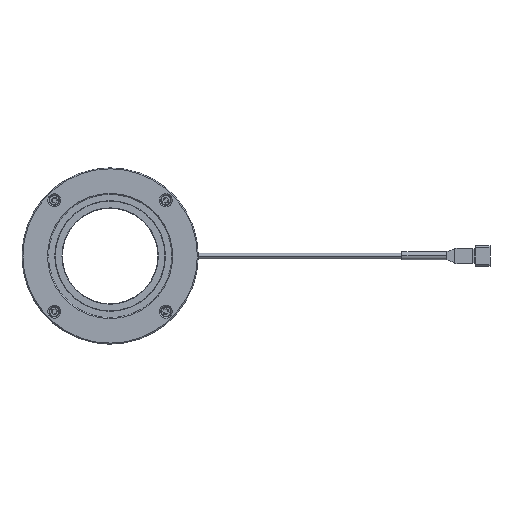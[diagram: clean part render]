
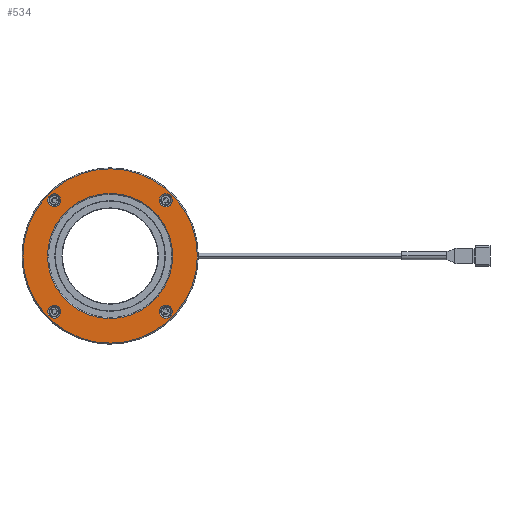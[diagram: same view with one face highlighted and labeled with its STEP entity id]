
A CAD part, top view. The second image highlights one B-rep face of the part: STEP entity #534.
In plain terms, the highlighted planar face has unit normal (0, 0, 1).
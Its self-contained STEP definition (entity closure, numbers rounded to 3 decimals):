
#534=ADVANCED_FACE('NONE',(#1278,#1279,#1280,#1281,#1282,#1283),#1284,.F.);
#1278=FACE_OUTER_BOUND('',#2315,.T.);
#1279=FACE_BOUND('',#2316,.T.);
#1280=FACE_BOUND('',#2317,.T.);
#1281=FACE_BOUND('',#2318,.T.);
#1282=FACE_BOUND('',#2319,.T.);
#1283=FACE_BOUND('',#2320,.T.);
#1284=PLANE('',#2321);
#2315=EDGE_LOOP('',(#3819,#3820));
#2316=EDGE_LOOP('',(#3821,#3822));
#2317=EDGE_LOOP('',(#3823,#3824));
#2318=EDGE_LOOP('',(#3825,#3826));
#2319=EDGE_LOOP('',(#3827,#3828));
#2320=EDGE_LOOP('',(#3829,#3830));
#2321=AXIS2_PLACEMENT_3D('',#3831,#3832,#3833);
#3819=ORIENTED_EDGE('',*,*,#6564,.T.);
#3820=ORIENTED_EDGE('',*,*,#6446,.T.);
#3821=ORIENTED_EDGE('',*,*,#6451,.T.);
#3822=ORIENTED_EDGE('',*,*,#6565,.T.);
#3823=ORIENTED_EDGE('',*,*,#6481,.T.);
#3824=ORIENTED_EDGE('',*,*,#6566,.T.);
#3825=ORIENTED_EDGE('',*,*,#6476,.T.);
#3826=ORIENTED_EDGE('',*,*,#6567,.T.);
#3827=ORIENTED_EDGE('',*,*,#6471,.T.);
#3828=ORIENTED_EDGE('',*,*,#6568,.T.);
#3829=ORIENTED_EDGE('',*,*,#6466,.T.);
#3830=ORIENTED_EDGE('',*,*,#6569,.T.);
#3831=CARTESIAN_POINT('',(48.0,0.0,30.0));
#3832=DIRECTION('',(0.,0.0,-1.0));
#3833=DIRECTION('',(-1.0,0.0,0.));
#6446=EDGE_CURVE('NONE',#7562,#7559,#7563,.T.);
#6451=EDGE_CURVE('NONE',#7571,#7568,#7572,.T.);
#6466=EDGE_CURVE('NONE',#7598,#7595,#7599,.T.);
#6471=EDGE_CURVE('NONE',#7607,#7604,#7608,.T.);
#6476=EDGE_CURVE('NONE',#7616,#7613,#7617,.T.);
#6481=EDGE_CURVE('NONE',#7625,#7622,#7626,.T.);
#6564=EDGE_CURVE('NONE',#7559,#7562,#7742,.T.);
#6565=EDGE_CURVE('NONE',#7568,#7571,#7743,.T.);
#6566=EDGE_CURVE('NONE',#7622,#7625,#7744,.T.);
#6567=EDGE_CURVE('NONE',#7613,#7616,#7745,.T.);
#6568=EDGE_CURVE('NONE',#7604,#7607,#7746,.T.);
#6569=EDGE_CURVE('NONE',#7595,#7598,#7747,.T.);
#7559=VERTEX_POINT('NONE',#9176);
#7562=VERTEX_POINT('',#9180);
#7563=CIRCLE('',#9181,47.5);
#7568=VERTEX_POINT('',#9187);
#7571=VERTEX_POINT('NONE',#9191);
#7572=CIRCLE('',#9192,34.1);
#7595=VERTEX_POINT('',#9218);
#7598=VERTEX_POINT('NONE',#9222);
#7599=CIRCLE('',#9223,3.5);
#7604=VERTEX_POINT('',#9229);
#7607=VERTEX_POINT('NONE',#9233);
#7608=CIRCLE('',#9234,3.5);
#7613=VERTEX_POINT('',#9240);
#7616=VERTEX_POINT('NONE',#9244);
#7617=CIRCLE('',#9245,3.5);
#7622=VERTEX_POINT('',#9251);
#7625=VERTEX_POINT('NONE',#9255);
#7626=CIRCLE('',#9256,3.5);
#7742=CIRCLE('',#9397,47.5);
#7743=CIRCLE('',#9398,34.1);
#7744=CIRCLE('',#9399,3.5);
#7745=CIRCLE('',#9400,3.5);
#7746=CIRCLE('',#9401,3.5);
#7747=CIRCLE('',#9402,3.5);
#9176=CARTESIAN_POINT('',(-47.5,0.0,30.0));
#9180=CARTESIAN_POINT('',(47.5,0.,30.0));
#9181=AXIS2_PLACEMENT_3D('',#11865,#11866,#11867);
#9187=CARTESIAN_POINT('',(34.1,0.,30.0));
#9191=CARTESIAN_POINT('',(-34.1,0.0,30.0));
#9192=AXIS2_PLACEMENT_3D('',#11873,#11874,#11875);
#9218=CARTESIAN_POINT('',(-26.906,30.406,30.0));
#9222=CARTESIAN_POINT('',(-33.906,30.406,30.0));
#9223=AXIS2_PLACEMENT_3D('',#11901,#11902,#11903);
#9229=CARTESIAN_POINT('',(-26.906,-30.406,30.0));
#9233=CARTESIAN_POINT('',(-33.906,-30.406,30.0));
#9234=AXIS2_PLACEMENT_3D('',#11909,#11910,#11911);
#9240=CARTESIAN_POINT('',(33.906,-30.406,30.0));
#9244=CARTESIAN_POINT('',(26.906,-30.406,30.0));
#9245=AXIS2_PLACEMENT_3D('',#11917,#11918,#11919);
#9251=CARTESIAN_POINT('',(33.906,30.406,30.0));
#9255=CARTESIAN_POINT('',(26.906,30.406,30.0));
#9256=AXIS2_PLACEMENT_3D('',#11925,#11926,#11927);
#9397=AXIS2_PLACEMENT_3D('',#12055,#12056,#12057);
#9398=AXIS2_PLACEMENT_3D('',#12058,#12059,#12060);
#9399=AXIS2_PLACEMENT_3D('',#12061,#12062,#12063);
#9400=AXIS2_PLACEMENT_3D('',#12064,#12065,#12066);
#9401=AXIS2_PLACEMENT_3D('',#12067,#12068,#12069);
#9402=AXIS2_PLACEMENT_3D('',#12070,#12071,#12072);
#11865=CARTESIAN_POINT('',(0.,0.0,30.0));
#11866=DIRECTION('',(0.,0.0,1.0));
#11867=DIRECTION('',(-1.0,0.0,0.));
#11873=CARTESIAN_POINT('',(0.,0.0,30.0));
#11874=DIRECTION('',(0.,0.0,-1.0));
#11875=DIRECTION('',(-1.0,0.0,0.));
#11901=CARTESIAN_POINT('',(-30.406,30.406,30.0));
#11902=DIRECTION('',(0.0,0.0,-1.0));
#11903=DIRECTION('',(-1.0,0.0,0.0));
#11909=CARTESIAN_POINT('',(-30.406,-30.406,30.0));
#11910=DIRECTION('',(0.0,0.0,-1.0));
#11911=DIRECTION('',(-1.0,0.0,0.0));
#11917=CARTESIAN_POINT('',(30.406,-30.406,30.0));
#11918=DIRECTION('',(0.0,0.0,-1.0));
#11919=DIRECTION('',(-1.0,0.0,0.0));
#11925=CARTESIAN_POINT('',(30.406,30.406,30.0));
#11926=DIRECTION('',(0.0,0.0,-1.0));
#11927=DIRECTION('',(-1.0,0.0,0.0));
#12055=CARTESIAN_POINT('',(0.,0.0,30.0));
#12056=DIRECTION('',(0.,0.0,1.0));
#12057=DIRECTION('',(-1.0,0.0,0.));
#12058=CARTESIAN_POINT('',(0.,0.0,30.0));
#12059=DIRECTION('',(0.,0.0,-1.0));
#12060=DIRECTION('',(-1.0,0.0,0.));
#12061=CARTESIAN_POINT('',(30.406,30.406,30.0));
#12062=DIRECTION('',(0.0,0.0,-1.0));
#12063=DIRECTION('',(-1.0,0.0,0.0));
#12064=CARTESIAN_POINT('',(30.406,-30.406,30.0));
#12065=DIRECTION('',(0.0,0.0,-1.0));
#12066=DIRECTION('',(-1.0,0.0,0.0));
#12067=CARTESIAN_POINT('',(-30.406,-30.406,30.0));
#12068=DIRECTION('',(0.0,0.0,-1.0));
#12069=DIRECTION('',(-1.0,0.0,0.0));
#12070=CARTESIAN_POINT('',(-30.406,30.406,30.0));
#12071=DIRECTION('',(0.0,0.0,-1.0));
#12072=DIRECTION('',(-1.0,0.0,0.0));
